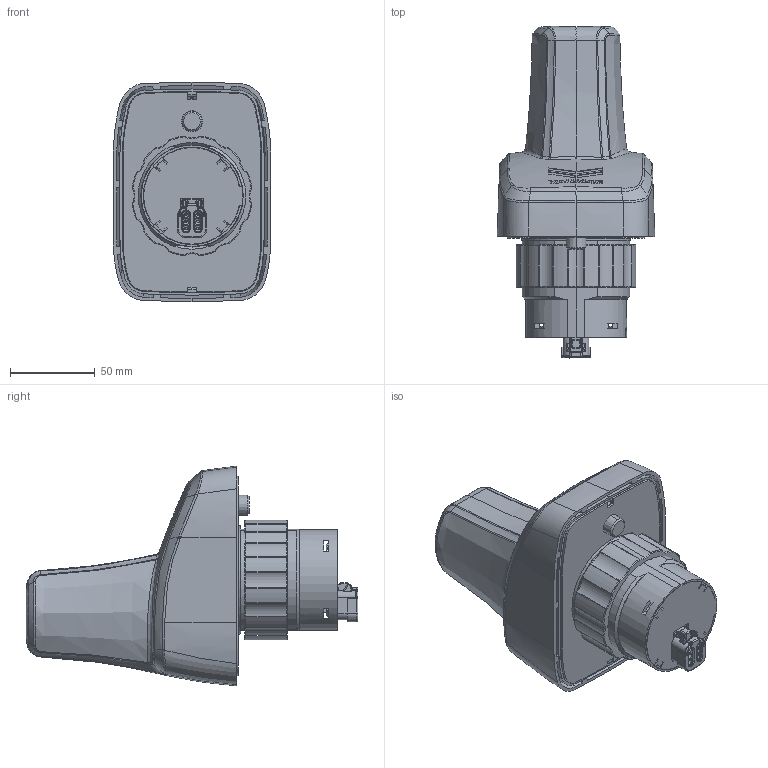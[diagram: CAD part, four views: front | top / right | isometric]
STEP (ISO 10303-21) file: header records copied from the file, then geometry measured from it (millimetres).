
FILE_DESCRIPTION((''),'2;1');
FILE_NAME('164300-42000_JOYSTICK_ASM','2026-02-02T14:04:29',('igor_vandeburgt'),(''),'CREO PARAMETRIC BY PTC INC, 2023494','CREO PARAMETRIC BY PTC INC, 2023494','');
FILE_SCHEMA(('CONFIG_CONTROL_DESIGN'));
Products named in the file (3): 164300-42000_JOYSTICK; 164300-42200_COVER; 164300-42000_JOYSTICK_ASM
Assembly tree (2 placements, depth 2):
  164300-42000_JOYSTICK_ASM
    164300-42000_JOYSTICK
    164300-42200_COVER
Bounding box: 93.03 x 195.91 x 129.62 mm (x, y, z)
Surface area: 177536.4 mm2 (no closed solid volume)
Topology: 0 solids, 47 shells, 1406 faces, 4572 edges, 3147 vertices
Faces by surface type: bspline 614, plane 320, cylinder 206, extrusion 120, torus 77, cone 51, sphere 18
Entity records: 188857 total; most frequent: CARTESIAN_POINT 156219, ORIENTED_EDGE 7568, EDGE_CURVE 4552, DIRECTION 4157, VERTEX_POINT 3147, B_SPLINE_CURVE_WITH_KNOTS 2665, EDGE_LOOP 1496, VECTOR 1451
